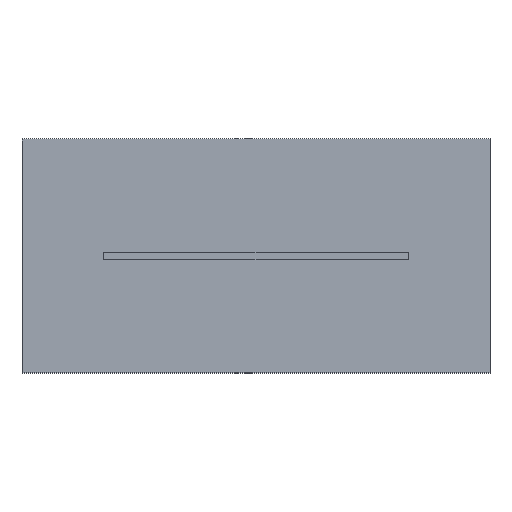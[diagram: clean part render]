
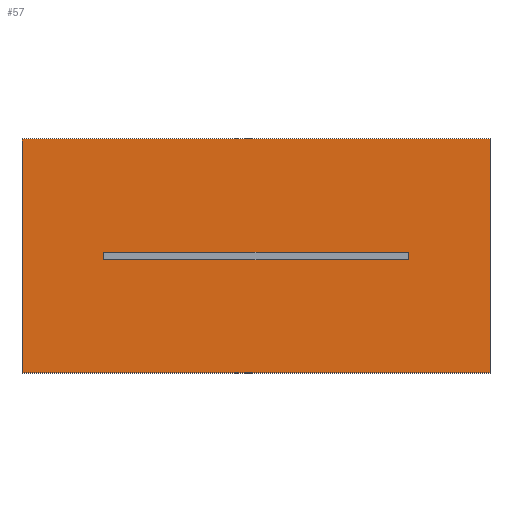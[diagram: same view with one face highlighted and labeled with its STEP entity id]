
A CAD part, top view. The second image highlights one B-rep face of the part: STEP entity #57.
In plain terms, the highlighted planar face has unit normal (0, 0, 1).
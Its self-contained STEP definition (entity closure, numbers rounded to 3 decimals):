
#12=FACE_BOUND($,#139,.T.);
#57=ADVANCED_FACE($,(#97,#12),#487,.T.);
#97=FACE_OUTER_BOUND($,#138,.T.);
#138=EDGE_LOOP($,(#276,#277,#278,#279));
#139=EDGE_LOOP($,(#280,#281,#282,#283));
#276=ORIENTED_EDGE($,*,*,#386,.F.);
#277=ORIENTED_EDGE($,*,*,#387,.F.);
#278=ORIENTED_EDGE($,*,*,#388,.F.);
#279=ORIENTED_EDGE($,*,*,#384,.F.);
#280=ORIENTED_EDGE($,*,*,#385,.T.);
#281=ORIENTED_EDGE($,*,*,#391,.T.);
#282=ORIENTED_EDGE($,*,*,#390,.T.);
#283=ORIENTED_EDGE($,*,*,#389,.T.);
#384=EDGE_CURVE($,#448,#452,#564,.T.);
#385=EDGE_CURVE($,#449,#455,#565,.T.);
#386=EDGE_CURVE($,#450,#448,#566,.T.);
#387=EDGE_CURVE($,#451,#450,#567,.T.);
#388=EDGE_CURVE($,#452,#451,#568,.T.);
#389=EDGE_CURVE($,#453,#449,#569,.T.);
#390=EDGE_CURVE($,#454,#453,#570,.T.);
#391=EDGE_CURVE($,#455,#454,#571,.T.);
#448=VERTEX_POINT($,#1010);
#449=VERTEX_POINT($,#1011);
#450=VERTEX_POINT($,#1012);
#451=VERTEX_POINT($,#1013);
#452=VERTEX_POINT($,#1014);
#453=VERTEX_POINT($,#1015);
#454=VERTEX_POINT($,#1016);
#455=VERTEX_POINT($,#1017);
#487=PLANE($,#699);
#564=B_SPLINE_CURVE_WITH_KNOTS($,1,(#960,#961),.UNSPECIFIED.,.F.,.F.,(2,
2),(0.,2400.),.UNSPECIFIED.);
#565=B_SPLINE_CURVE_WITH_KNOTS($,1,(#962,#963),.UNSPECIFIED.,.F.,.F.,(2,
2),(-5190.,-5160.),.UNSPECIFIED.);
#566=B_SPLINE_CURVE_WITH_KNOTS($,1,(#964,#965),.UNSPECIFIED.,.F.,.F.,(2,
2),(5800.,6800.),.UNSPECIFIED.);
#567=B_SPLINE_CURVE_WITH_KNOTS($,1,(#966,#967),.UNSPECIFIED.,.F.,.F.,(2,
2),(3400.,5800.),.UNSPECIFIED.);
#568=B_SPLINE_CURVE_WITH_KNOTS($,1,(#968,#969),.UNSPECIFIED.,.F.,.F.,(2,
2),(2400.,3400.),.UNSPECIFIED.);
#569=B_SPLINE_CURVE_WITH_KNOTS($,1,(#970,#971),.UNSPECIFIED.,.F.,.F.,(2,
2),(-3430.,-1730.),.UNSPECIFIED.);
#570=B_SPLINE_CURVE_WITH_KNOTS($,1,(#972,#973),.UNSPECIFIED.,.F.,.F.,(2,
2),(-3460.,-3430.),.UNSPECIFIED.);
#571=B_SPLINE_CURVE_WITH_KNOTS($,1,(#974,#975),.UNSPECIFIED.,.F.,.F.,(2,
2),(-5160.,-3460.),.UNSPECIFIED.);
#699=AXIS2_PLACEMENT_3D($,#993,#742,$);
#742=DIRECTION($,(0.,0.,1.));
#960=CARTESIAN_POINT($,(-141.778,1066.045,40.));
#961=CARTESIAN_POINT($,(1858.222,1066.045,40.));
#962=CARTESIAN_POINT($,(1508.222,581.045,40.));
#963=CARTESIAN_POINT($,(1508.222,551.045,40.));
#964=CARTESIAN_POINT($,(-141.778,66.045,40.));
#965=CARTESIAN_POINT($,(-141.778,1066.045,40.));
#966=CARTESIAN_POINT($,(1858.222,66.045,40.));
#967=CARTESIAN_POINT($,(-141.778,66.045,40.));
#968=CARTESIAN_POINT($,(1858.222,1066.045,40.));
#969=CARTESIAN_POINT($,(1858.222,66.045,40.));
#970=CARTESIAN_POINT($,(208.222,581.045,40.));
#971=CARTESIAN_POINT($,(1508.222,581.045,40.));
#972=CARTESIAN_POINT($,(208.222,551.045,40.));
#973=CARTESIAN_POINT($,(208.222,581.045,40.));
#974=CARTESIAN_POINT($,(1508.222,551.045,40.));
#975=CARTESIAN_POINT($,(208.222,551.045,40.));
#993=CARTESIAN_POINT($,(-141.778,1066.045,40.));
#1010=CARTESIAN_POINT($,(-141.778,1066.045,40.));
#1011=CARTESIAN_POINT($,(1508.222,581.045,40.));
#1012=CARTESIAN_POINT($,(-141.778,66.045,40.));
#1013=CARTESIAN_POINT($,(1858.222,66.045,40.));
#1014=CARTESIAN_POINT($,(1858.222,1066.045,40.));
#1015=CARTESIAN_POINT($,(208.222,581.045,40.));
#1016=CARTESIAN_POINT($,(208.222,551.045,40.));
#1017=CARTESIAN_POINT($,(1508.222,551.045,40.));
